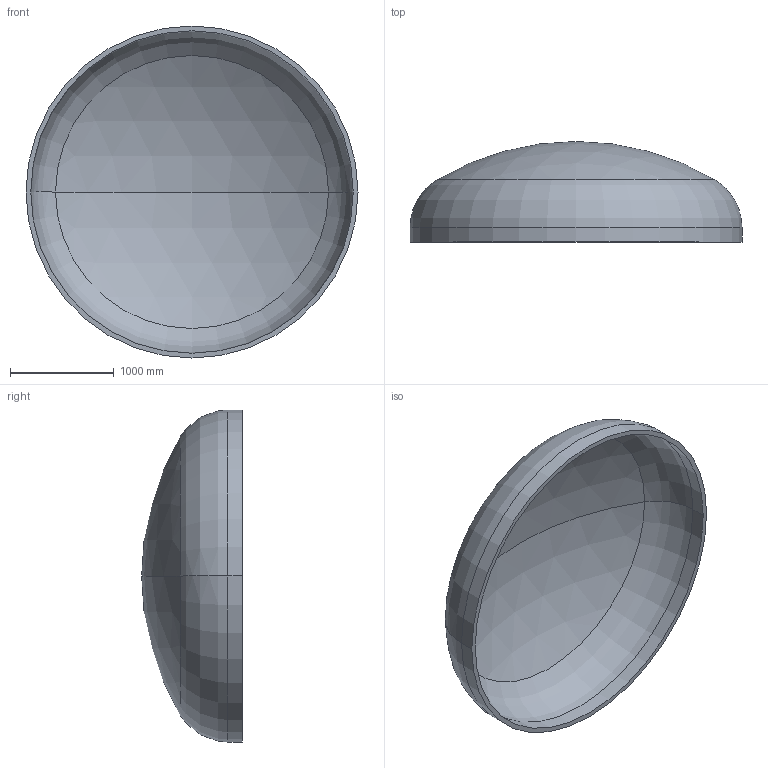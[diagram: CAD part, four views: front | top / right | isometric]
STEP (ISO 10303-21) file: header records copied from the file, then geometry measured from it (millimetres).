
FILE_DESCRIPTION (( 'STEP AP203' ), '1' );
FILE_NAME ('DIN 28013 Korbbogenform_-_Boden DIN 28013 - 3200 x 140 - I - s=46.step', '2016-07-01T18:40:09', ( '' ), ( '' ), 'SwSTEP 2.0', 'SolidWorks 2013', '' );
FILE_SCHEMA (( 'CONFIG_CONTROL_DESIGN' ));
Length unit declared in the file: millimetre
Products named in the file (1): DIN 28013 Korbbogenform_-_Boden DIN 28013 - 3200 x 140 - I - s=46
Bounding box: 3200 x 970.39 x 3200 mm (x, y, z)
Volume: 565990945.9 mm3; surface area: 25068520 mm2
Topology: 1 solids, 1 shells, 13 faces, 24 edges, 14 vertices
Faces by surface type: torus 4, cylinder 4, sphere 4, plane 1
Entity records: 407 total; most frequent: DIRECTION 72, CARTESIAN_POINT 52, ORIENTED_EDGE 48, AXIS2_PLACEMENT_3D 34, EDGE_CURVE 24, CIRCLE 20, VERTEX_POINT 14, EDGE_LOOP 14
